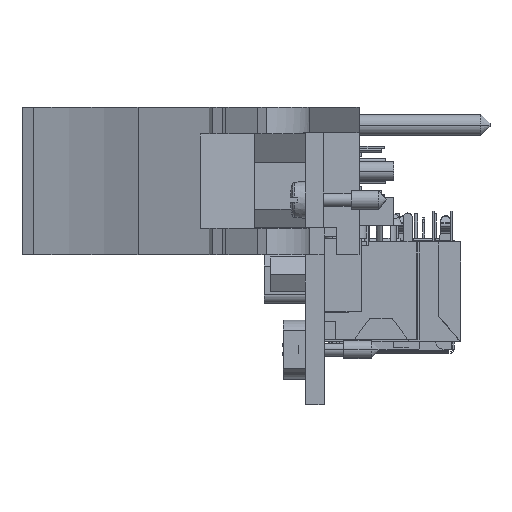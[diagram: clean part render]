
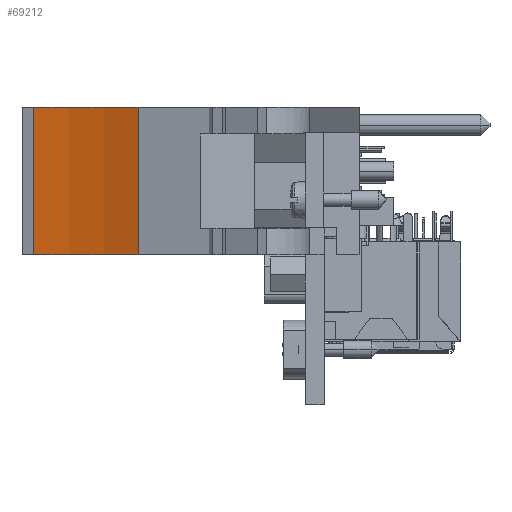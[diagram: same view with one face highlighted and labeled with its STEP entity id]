
A CAD part, front view. The second image highlights one B-rep face of the part: STEP entity #69212.
In plain terms, the highlighted cylindrical face has radius 51.46 mm (diameter 102.919 mm), a partial arc.
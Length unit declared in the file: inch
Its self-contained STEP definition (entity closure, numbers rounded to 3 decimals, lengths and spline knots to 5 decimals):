
#67853=CARTESIAN_POINT('',(-1.97633,-5.95079,-0.089));
#67854=DIRECTION('',(0.,0.,1.));
#67855=DIRECTION('',(0.435,0.9,0.));
#67856=AXIS2_PLACEMENT_3D('',#67853,#67854,#67855);
#68175=CARTESIAN_POINT('',(-1.97633,-5.95079,0.699));
#68176=DIRECTION('',(0.,0.,1.));
#68177=DIRECTION('',(0.435,0.9,0.));
#68178=AXIS2_PLACEMENT_3D('',#68175,#68176,#68177);
#68274=DIRECTION('',(0.,0.,1.));
#68275=VECTOR('',#68274,0.788);
#68276=CARTESIAN_POINT('',(-1.09503,-4.12655,-0.089));
#68277=LINE('',#68276,#68275);
#68290=DIRECTION('',(0.,0.,1.));
#68291=VECTOR('',#68290,0.788);
#68292=CARTESIAN_POINT('',(-1.653,-3.95079,-0.089));
#68293=LINE('',#68292,#68291);
#68603=CARTESIAN_POINT('',(-1.09503,-4.12655,-0.089));
#68604=CARTESIAN_POINT('',(-1.653,-3.95079,-0.089));
#68605=VERTEX_POINT('',#68603);
#68606=VERTEX_POINT('',#68604);
#68607=CARTESIAN_POINT('',(-1.09503,-4.12655,0.699));
#68608=CARTESIAN_POINT('',(-1.653,-3.95079,0.699));
#68609=VERTEX_POINT('',#68607);
#68610=VERTEX_POINT('',#68608);
#69201=CARTESIAN_POINT('',(-1.97633,-5.95079,0.699));
#69202=DIRECTION('',(0.,0.,1.));
#69203=DIRECTION('',(0.,1.,0.));
#69204=AXIS2_PLACEMENT_3D('',#69201,#69202,#69203);
#69205=CYLINDRICAL_SURFACE('',#69204,2.02597);
#69206=ORIENTED_EDGE('',*,*,#68706,.T.);
#69207=ORIENTED_EDGE('',*,*,#69192,.T.);
#69208=ORIENTED_EDGE('',*,*,#69031,.F.);
#69209=ORIENTED_EDGE('',*,*,#69173,.F.);
#69210=EDGE_LOOP('',(#69206,#69207,#69208,#69209));
#69211=FACE_OUTER_BOUND('',#69210,.F.);
#69212=ADVANCED_FACE('',(#69211),#69205,.F.);
#67857=CIRCLE('',#67856,2.02597);
#68179=CIRCLE('',#68178,2.02597);
#68706=EDGE_CURVE('',#68605,#68606,#67857,.T.);
#69031=EDGE_CURVE('',#68609,#68610,#68179,.T.);
#69173=EDGE_CURVE('',#68605,#68609,#68277,.T.);
#69192=EDGE_CURVE('',#68606,#68610,#68293,.T.);
